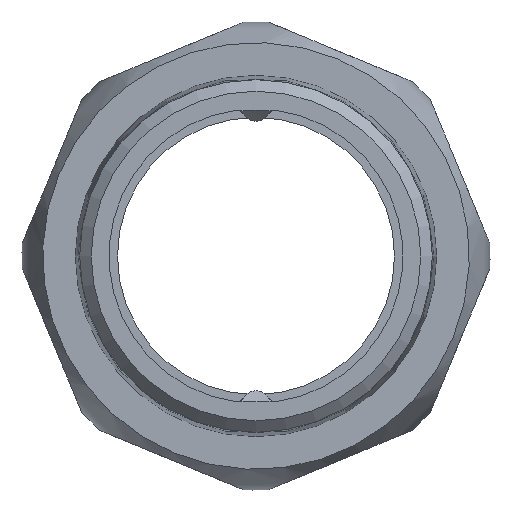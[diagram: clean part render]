
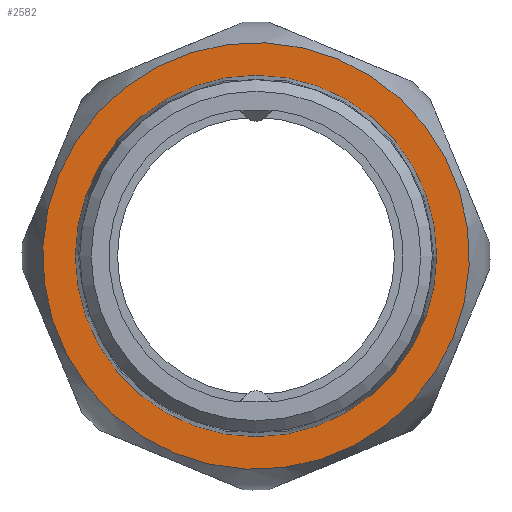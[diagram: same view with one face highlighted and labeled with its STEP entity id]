
A CAD part, left-side view. The second image highlights one B-rep face of the part: STEP entity #2582.
In plain terms, the highlighted planar face has unit normal (-1, 0, 0) as drawn and (1, 0, 0) by its records, which use the part's own axes.
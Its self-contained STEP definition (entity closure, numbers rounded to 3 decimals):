
#2548=CARTESIAN_POINT('',(22.0,28.5,0.0));
#2549=VERTEX_POINT('',#2548);
#2550=CARTESIAN_POINT('',(22.0,0.0,0.0));
#2551=DIRECTION('',(1.0,0.0,0.0));
#2552=DIRECTION('',(0.0,1.0,0.0));
#2553=AXIS2_PLACEMENT_3D('',#2550,#2551,#2552);
#2554=CIRCLE('',#2553,28.5);
#2555=EDGE_CURVE('',#2549,#2549,#2554,.T.);
#2563=CARTESIAN_POINT('',(22.0,26.25,0.0));
#2564=DIRECTION('',(1.0,0.0,0.0));
#2565=DIRECTION('',(0.0,0.0,-1.0));
#2566=AXIS2_PLACEMENT_3D('',#2563,#2564,#2565);
#2567=PLANE('',#2566);
#2568=ORIENTED_EDGE('',*,*,#2555,.T.);
#2569=EDGE_LOOP('',(#2568));
#2570=FACE_OUTER_BOUND('',#2569,.T.);
#2571=CARTESIAN_POINT('',(22.0,24.,0.0));
#2572=VERTEX_POINT('',#2571);
#2573=CARTESIAN_POINT('',(22.0,0.0,0.0));
#2574=DIRECTION('',(1.0,0.0,0.0));
#2575=DIRECTION('',(0.0,1.0,0.0));
#2576=AXIS2_PLACEMENT_3D('',#2573,#2574,#2575);
#2577=CIRCLE('',#2576,24.);
#2578=EDGE_CURVE('',#2572,#2572,#2577,.T.);
#2579=ORIENTED_EDGE('',*,*,#2578,.F.);
#2580=EDGE_LOOP('',(#2579));
#2581=FACE_BOUND('',#2580,.T.);
#2582=ADVANCED_FACE('',(#2570,#2581),#2567,.T.);
